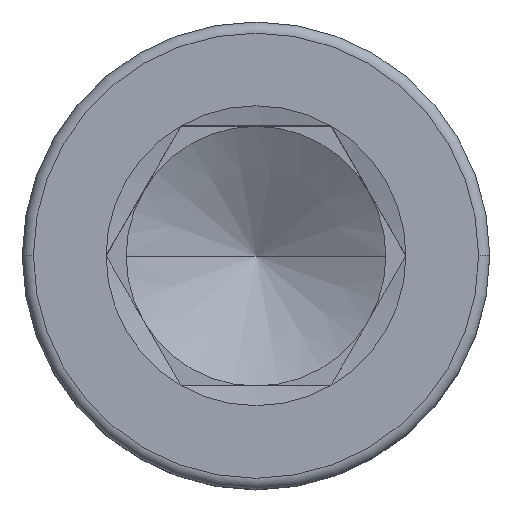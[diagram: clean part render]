
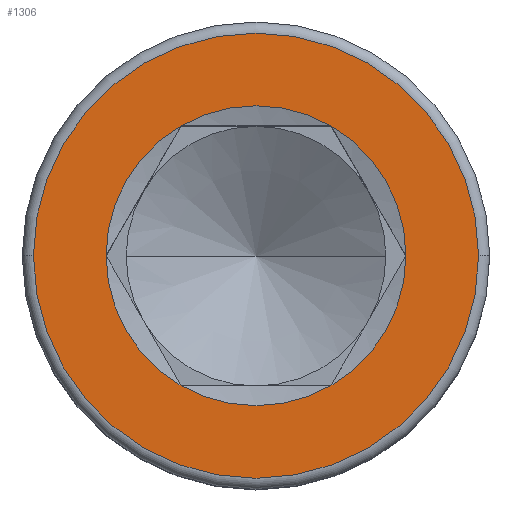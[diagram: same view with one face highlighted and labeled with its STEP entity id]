
A CAD part, top view. The second image highlights one B-rep face of the part: STEP entity #1306.
In plain terms, the highlighted planar face has unit normal (0, 0, 1).
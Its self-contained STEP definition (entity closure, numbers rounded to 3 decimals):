
#6 = EDGE_LOOP ( 'NONE', ( #370, #381 ) ) ;
#7 = PLANE ( 'NONE',  #276 ) ;
#8 = ORIENTED_EDGE ( 'NONE', *, *, #1536, .F. ) ;
#19 = DIRECTION ( 'NONE',  ( 1., 0., 0. ) ) ;
#34 = DIRECTION ( 'NONE',  ( 0., 0., 1. ) ) ;
#138 = EDGE_CURVE ( 'NONE', #1376, #1106, #1250, .T. ) ;
#146 = EDGE_CURVE ( 'NONE', #1081, #1406, #1280, .T. ) ;
#156 = AXIS2_PLACEMENT_3D ( 'NONE', #1761, #1589, #494 ) ;
#232 = ORIENTED_EDGE ( 'NONE', *, *, #890, .F. ) ;
#242 = DIRECTION ( 'NONE',  ( 0., 0., 1. ) ) ;
#276 = AXIS2_PLACEMENT_3D ( 'NONE', #1384, #34, #711 ) ;
#358 = CARTESIAN_POINT ( 'NONE',  ( 0., 0., 12. ) ) ;
#370 = ORIENTED_EDGE ( 'NONE', *, *, #138, .T. ) ;
#374 = DIRECTION ( 'NONE',  ( 0., 0., 1. ) ) ;
#375 = EDGE_CURVE ( 'NONE', #1717, #1205, #1281, .T. ) ;
#381 = ORIENTED_EDGE ( 'NONE', *, *, #1453, .T. ) ;
#401 = CARTESIAN_POINT ( 'NONE',  ( 0., 0., 12. ) ) ;
#430 = DIRECTION ( 'NONE',  ( 0., 0., 1. ) ) ;
#432 = CARTESIAN_POINT ( 'NONE',  ( 0., 0., 12. ) ) ;
#445 = CIRCLE ( 'NONE', #1336, 5.774 ) ;
#494 = DIRECTION ( 'NONE',  ( 1., 0., 0. ) ) ;
#504 = DIRECTION ( 'NONE',  ( 1., 0., 0. ) ) ;
#515 = AXIS2_PLACEMENT_3D ( 'NONE', #401, #946, #1096 ) ;
#521 = CARTESIAN_POINT ( 'NONE',  ( -2.887, -5., 12. ) ) ;
#544 = CARTESIAN_POINT ( 'NONE',  ( -8.57, 0., 12. ) ) ;
#618 = AXIS2_PLACEMENT_3D ( 'NONE', #1734, #242, #1751 ) ;
#620 = DIRECTION ( 'NONE',  ( 0., 0., 1. ) ) ;
#632 = EDGE_CURVE ( 'NONE', #1406, #1409, #1594, .T. ) ;
#661 = CARTESIAN_POINT ( 'NONE',  ( 0., 0., 12. ) ) ;
#711 = DIRECTION ( 'NONE',  ( 1., 0., 0. ) ) ;
#741 = AXIS2_PLACEMENT_3D ( 'NONE', #358, #620, #504 ) ;
#751 = CARTESIAN_POINT ( 'NONE',  ( 5.774, 0., 12. ) ) ;
#767 = CIRCLE ( 'NONE', #515, 5.774 ) ;
#780 = CARTESIAN_POINT ( 'NONE',  ( -5.774, 0., 12. ) ) ;
#864 = FACE_OUTER_BOUND ( 'NONE', #6, .T. ) ;
#890 = EDGE_CURVE ( 'NONE', #1343, #1717, #445, .T. ) ;
#941 = AXIS2_PLACEMENT_3D ( 'NONE', #1617, #374, #1072 ) ;
#946 = DIRECTION ( 'NONE',  ( 0., 0., 1. ) ) ;
#995 = DIRECTION ( 'NONE',  ( 1., 0., 0. ) ) ;
#1043 = ORIENTED_EDGE ( 'NONE', *, *, #146, .F. ) ;
#1072 = DIRECTION ( 'NONE',  ( 1., 0., 0. ) ) ;
#1081 = VERTEX_POINT ( 'NONE', #780 ) ;
#1089 = CIRCLE ( 'NONE', #741, 8.57 ) ;
#1096 = DIRECTION ( 'NONE',  ( 1., 0., 0. ) ) ;
#1106 = VERTEX_POINT ( 'NONE', #544 ) ;
#1107 = FACE_BOUND ( 'NONE', #1546, .T. ) ;
#1110 = DIRECTION ( 'NONE',  ( 0., 0., 1. ) ) ;
#1156 = EDGE_CURVE ( 'NONE', #1409, #1343, #1226, .T. ) ;
#1205 = VERTEX_POINT ( 'NONE', #1784 ) ;
#1226 = CIRCLE ( 'NONE', #941, 5.774 ) ;
#1250 = CIRCLE ( 'NONE', #618, 8.57 ) ;
#1280 = CIRCLE ( 'NONE', #156, 5.774 ) ;
#1281 = CIRCLE ( 'NONE', #1684, 5.774 ) ;
#1296 = ORIENTED_EDGE ( 'NONE', *, *, #375, .F. ) ;
#1306 = ADVANCED_FACE ( 'NONE', ( #864, #1107 ), #7, .T. ) ;
#1336 = AXIS2_PLACEMENT_3D ( 'NONE', #1694, #430, #19 ) ;
#1342 = CARTESIAN_POINT ( 'NONE',  ( 8.57, 0., 12. ) ) ;
#1343 = VERTEX_POINT ( 'NONE', #751 ) ;
#1376 = VERTEX_POINT ( 'NONE', #1342 ) ;
#1384 = CARTESIAN_POINT ( 'NONE',  ( 0., 0., 12. ) ) ;
#1406 = VERTEX_POINT ( 'NONE', #521 ) ;
#1409 = VERTEX_POINT ( 'NONE', #1590 ) ;
#1429 = AXIS2_PLACEMENT_3D ( 'NONE', #661, #1788, #1629 ) ;
#1435 = CARTESIAN_POINT ( 'NONE',  ( 2.887, 5., 12. ) ) ;
#1453 = EDGE_CURVE ( 'NONE', #1106, #1376, #1089, .T. ) ;
#1533 = ORIENTED_EDGE ( 'NONE', *, *, #1156, .F. ) ;
#1536 = EDGE_CURVE ( 'NONE', #1205, #1081, #767, .T. ) ;
#1546 = EDGE_LOOP ( 'NONE', ( #232, #1533, #1691, #1043, #8, #1296 ) ) ;
#1589 = DIRECTION ( 'NONE',  ( 0., 0., 1. ) ) ;
#1590 = CARTESIAN_POINT ( 'NONE',  ( 2.887, -5., 12. ) ) ;
#1594 = CIRCLE ( 'NONE', #1429, 5.774 ) ;
#1617 = CARTESIAN_POINT ( 'NONE',  ( 0., 0., 12. ) ) ;
#1629 = DIRECTION ( 'NONE',  ( 1., 0., 0. ) ) ;
#1684 = AXIS2_PLACEMENT_3D ( 'NONE', #432, #1110, #995 ) ;
#1691 = ORIENTED_EDGE ( 'NONE', *, *, #632, .F. ) ;
#1694 = CARTESIAN_POINT ( 'NONE',  ( 0., 0., 12. ) ) ;
#1717 = VERTEX_POINT ( 'NONE', #1435 ) ;
#1734 = CARTESIAN_POINT ( 'NONE',  ( 0., 0., 12. ) ) ;
#1751 = DIRECTION ( 'NONE',  ( 1., 0., 0. ) ) ;
#1761 = CARTESIAN_POINT ( 'NONE',  ( 0., 0., 12. ) ) ;
#1784 = CARTESIAN_POINT ( 'NONE',  ( -2.887, 5., 12. ) ) ;
#1788 = DIRECTION ( 'NONE',  ( 0., 0., 1. ) ) ;
